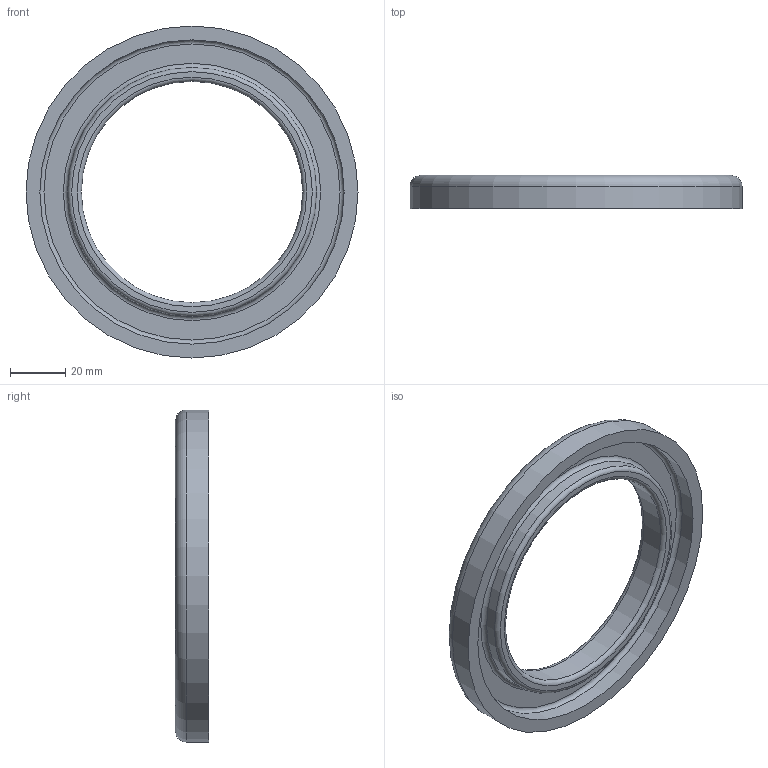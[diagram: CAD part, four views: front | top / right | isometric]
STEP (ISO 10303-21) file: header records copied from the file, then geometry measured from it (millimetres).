
FILE_DESCRIPTION(/* description */ (''),/* implementation_level */ '2;1');
FILE_NAME(/* name */ 'G:\YandexDisk\Работа\Inventor\Универ\ОАП\Лабораторные работы\ЛР6 Создание сборок\Редуктор\stp\Кольцо 1.stp',/* time_stamp */ '2023-11-17T06:30:18+03:00',/* author */ ('34740'),/* organization */ (''),/* preprocessor_version */ 'ST-DEVELOPER v18.1',/* originating_system */ 'Autodesk Inventor 2022',/* authorisation */ '');
FILE_SCHEMA (('AUTOMOTIVE_DESIGN { 1 0 10303 214 3 1 1 }'));
Length unit declared in the file: millimetre
Products named in the file (1): Кольцо 1
Bounding box: 120 x 12 x 120 mm (x, y, z)
Volume: 51959.3 mm3; surface area: 22887.8 mm2
Topology: 1 solids, 1 shells, 14 faces, 30 edges, 20 vertices
Faces by surface type: torus 6, plane 4, cylinder 4
Full cylindrical faces by diameter (mm): 80 x1, 90 x1, 110 x1, 120 x1
Entity records: 445 total; most frequent: DIRECTION 86, CARTESIAN_POINT 65, ORIENTED_EDGE 60, AXIS2_PLACEMENT_3D 41, EDGE_CURVE 30, CIRCLE 26, VERTEX_POINT 20, EDGE_LOOP 18
